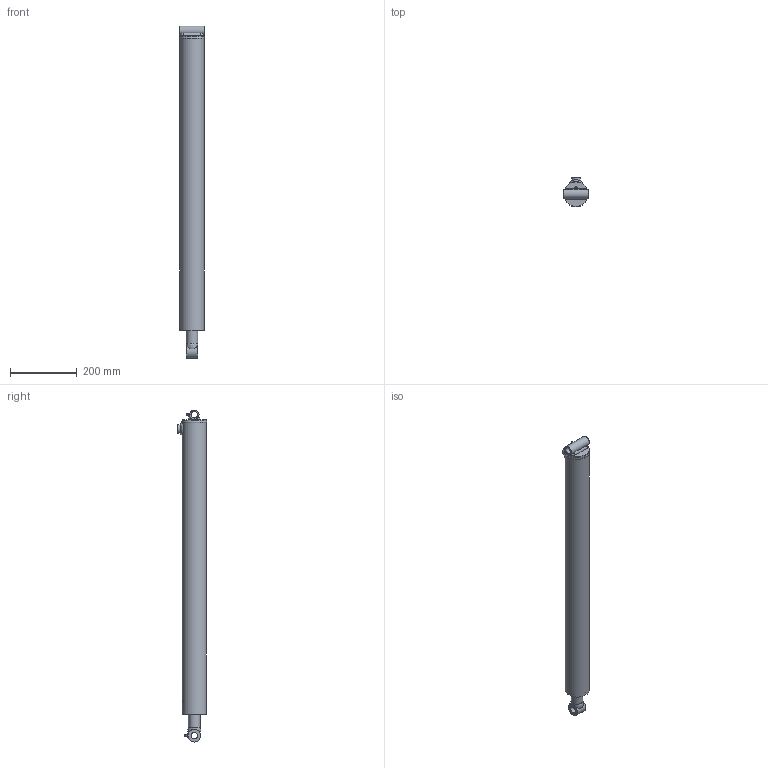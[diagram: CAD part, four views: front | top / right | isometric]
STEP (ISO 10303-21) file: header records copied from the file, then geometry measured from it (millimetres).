
FILE_DESCRIPTION((''),'2;1');
FILE_NAME('C:\Vault\Workspace\RefDataCylinders\Standards\PMC-5400\PMC-5430.stp','2010-07-28T11:59:34',('kneifld'),(''),'Autodesk Inventor 2010','Autodesk Inventor 2010','');
FILE_SCHEMA(('AUTOMOTIVE_DESIGN { 1 0 10303 214 1 1 1 1 }'));
Length unit declared in the file: inch
Products named in the file (19): PMC-5430; 061300050; 051300075; 161300005; 200014303; 210300144; B&TWeldVest; PortWeldVest; X-tube Weld; 081300356; 020700178; 010700671; 210300202; Rod Weld; 071300016; 220000208; 270010002; 270010020; 230001250
Assembly tree (18 placements, depth 3):
  PMC-5430
    061300050
      051300075
      161300005
      200014303
      210300144
      B&TWeldVest
      PortWeldVest
      X-tube Weld
    081300356
    020700178
      010700671
      210300202
      Rod Weld
    071300016
    220000208
    270010002
    270010020
    230001250
Bounding box: 76.2 x 87.97 x 998.52 mm (x, y, z)
Volume: 2044512.6 mm3; surface area: 577291.1 mm2
Topology: 16 solids, 16 shells, 198 faces, 415 edges, 259 vertices
Faces by surface type: plane 72, cylinder 53, cone 31, bspline 24, torus 16, sphere 2
Full cylindrical faces by diameter (mm): 1.524 x1, 2.794 x2, 6.074 x1, 9.525 x1, 18.999 x1, 19.126 x1, 19.558 x1, 19.837 x1, 19.844 x1, 21.615 x1, 25.4 x2, 28.575 x1, 34.925 x1, 35.001 x2, 38.1 x1, 38.71 x1, 41.275 x2, 42.85 x1, 48.768 x1, 54.051 x1, 54.864 x1, 56.032 x1, 58.725 x1, 63.017 x2, 63.246 x2, 63.271 x1, 63.5 x2, 65.088 x2, 67.259 x1, 73.025 x2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
Entity records: 6816 total; most frequent: CARTESIAN_POINT 2571, DIRECTION 815, ORIENTED_EDGE 598, AXIS2_PLACEMENT_3D 380, EDGE_LOOP 342, EDGE_CURVE 299, VERTEX_POINT 243, FACE_OUTER_BOUND 198
